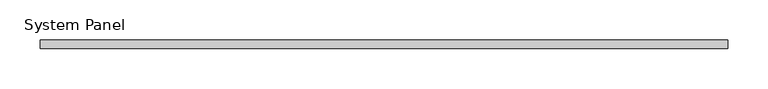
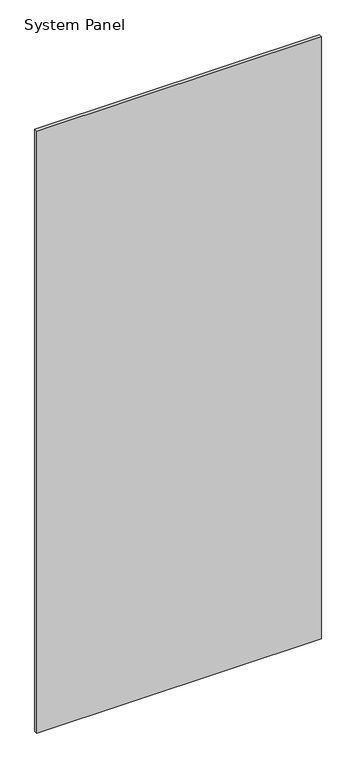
"""IFC4 building model written with IfcOpenShell, lengths in millimetres: plate geometry, System Panel : стекло_смещение_0."""

from ifc_helpers import new_model, si_unit, origin, origin_with_axes, place, context, project, spatial, polyline, outline, extrude, source, transform, mapped, element, save


def system_panel_a89175c5(model_context):
    return source(origin(), model_context, "Body", "SweptSolid", [
        extrude(outline(polyline([(425.0, -5.0), (-425.0, -5.0), (-425.0, 5.0), (425.0, 5.0), (425.0, -5.0)])), origin_with_axes(), (0.0, 0.0, 1.0), 1900.0),
    ])


if __name__ == "__main__":
    model = new_model("IFC4")
    model_context = context("Model", 3, world=origin())
    ifc_project = project(units=[si_unit("LENGTHUNIT", "METRE", prefix="MILLI")], contexts=[model_context])
    site = spatial("IfcSite", under=ifc_project)
    building = spatial("IfcBuilding", under=site)
    placement = place(None, origin())
    system_panel_shape = system_panel_a89175c5(model_context)
    element("IfcPlate", 1, ObjectType="System Panel : стекло_смещение_0", at=placement, inside=building, context=model_context, shape_type="MappedRepresentation", body=[
        mapped(system_panel_shape, transform((0.0, 0.0, 0.0), x_axis=(1.0, 0.0, 0.0), y_axis=(0.0, 1.0, 0.0), z_axis=(0.0, 0.0, 1.0))),
    ])
    save(model, "model.ifc")
